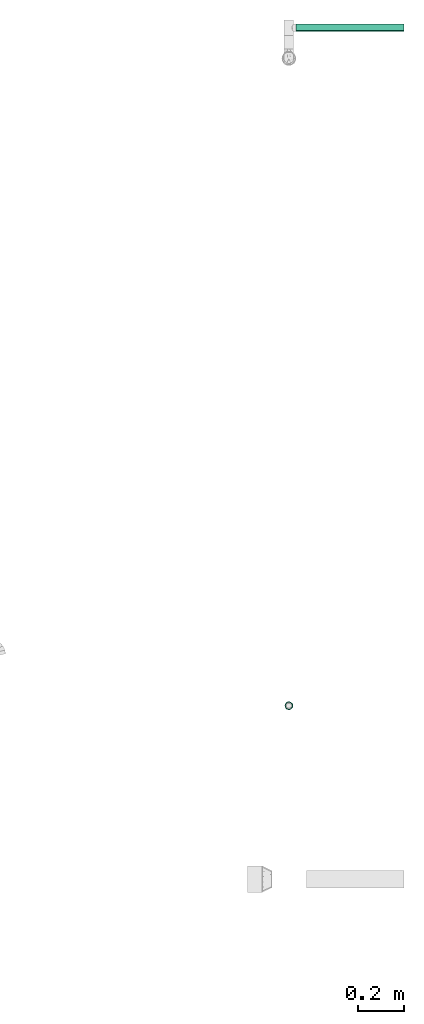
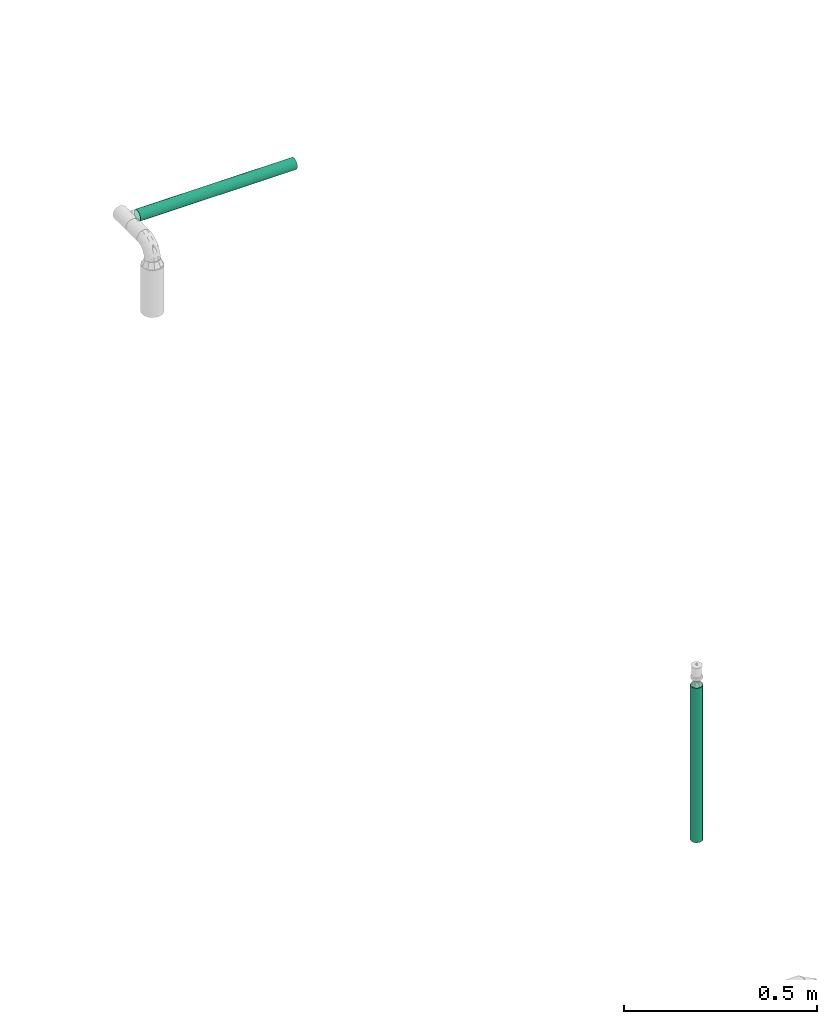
# One storey, part 61 of 63: 2 flow segments.
"""IFC2X3 building model written with IfcOpenShell, lengths in millimetres."""

import ifcopenshell
import ifcopenshell.guid

model = None  # the IFC model being written
_history = None  # IfcOwnerHistory: only IFC2X3 demands one
_inside = {}  # id of a spatial element -> (the spatial element, [elements in it])
_under = {}  # id of a project, library or spatial element -> (it, [spatial elements below it])
_declared = {}  # id of a project -> (the project, [libraries it declares])
_typed = {}  # id of a type object -> (the type object, [elements of that type])
_made_of = {}  # id of a material, layer set ... -> (it, [elements and type objects made of it])


def new_model(schema):
    """Start an empty IFC model of exactly this schema.

    Asked for "IFC4X3", IfcOpenShell would pick the latest addendum, in which some entities
    have other attributes; the version numbers below select the first issue.
    IFC2X3 requires an IfcOwnerHistory on every rooted entity: one is made here for all.
    """
    global model, _history
    if schema == "IFC4X3":
        model = ifcopenshell.file(schema_version=(4, 3, 0, 0))
    else:
        model = ifcopenshell.file(schema=schema)
    _inside.clear()
    _under.clear()
    _declared.clear()
    _typed.clear()
    _made_of.clear()
    _history = None
    if model.schema == "IFC2X3":
        org = make("IfcOrganization", Name="unknown")
        user = make(
            "IfcPersonAndOrganization",
            ThePerson=make("IfcPerson", FamilyName="unknown"),
            TheOrganization=org,
        )
        app = make(
            "IfcApplication",
            ApplicationDeveloper=org,
            Version="unknown",
            ApplicationFullName="unknown",
            ApplicationIdentifier="unknown",
        )
        _history = make(
            "IfcOwnerHistory",
            OwningUser=user,
            OwningApplication=app,
            ChangeAction="ADDED",
            CreationDate=0,
        )
    return model


def make(cls, **values):
    """One entity of the class cls with the attributes given. An attribute that is None is left unset."""
    return model.create_entity(
        cls, **{name: value for name, value in values.items() if value is not None}
    )


def entity(cls, *values):
    """Any entity or typed value of the class cls, its attributes in the order of the schema. None: left unset."""
    e = model.create_entity(cls)
    for i, value in enumerate(values):
        if value is not None:
            e[i] = value
    return e


def rooted(cls, **values):
    """An entity with a GlobalId (a new one), such as an element, a storey or a relation."""
    return make(cls, GlobalId=ifcopenshell.guid.new(), OwnerHistory=_history, **values)


def si_unit(unit_type, name, prefix=None):
    """IfcSIUnit, for example si_unit("LENGTHUNIT", "METRE", prefix="MILLI")."""
    return make("IfcSIUnit", UnitType=unit_type, Prefix=prefix, Name=name)


def converted_unit(unit_type, name, factor, base, dimensions=None, offset=None):
    """IfcConversionBasedUnit, such as the inch: factor (a typed value) times the base unit."""
    return make(
        "IfcConversionBasedUnit"
        if offset is None
        else "IfcConversionBasedUnitWithOffset",
        ConversionOffset=offset,
        Dimensions=None
        if dimensions is None
        else entity("IfcDimensionalExponents", *dimensions),
        UnitType=unit_type,
        Name=name,
        ConversionFactor=make(
            "IfcMeasureWithUnit", ValueComponent=factor, UnitComponent=base
        ),
    )


def derived_unit(unit_type, elements):
    """IfcDerivedUnit: a product of units, each with its exponent."""
    return make(
        "IfcDerivedUnit",
        Elements=[
            make("IfcDerivedUnitElement", Unit=unit, Exponent=power)
            for unit, power in elements
        ],
        UnitType=unit_type,
    )


def assignment(units):
    """IfcUnitAssignment: the units of a project."""
    return None if units is None else make("IfcUnitAssignment", Units=units)


def point(xyz):
    """IfcCartesianPoint."""
    return None if xyz is None else make("IfcCartesianPoint", Coordinates=xyz)


def direction(xyz):
    """IfcDirection."""
    return None if xyz is None else make("IfcDirection", DirectionRatios=xyz)


def frame(location, z_axis=None, x_axis=None):
    """IfcAxis2Placement3D, a coordinate frame: its origin and axes. An axis left out is left unset."""
    return make(
        "IfcAxis2Placement3D",
        Location=point(location),
        Axis=direction(z_axis),
        RefDirection=direction(x_axis),
    )


def place(relative_to, where):
    """IfcLocalPlacement: puts the frame where relative to a parent placement (None: the world)."""
    return make(
        "IfcLocalPlacement", PlacementRelTo=relative_to, RelativePlacement=where
    )


def context(
    kind, dimensions, precision=None, world=None, true_north=None, identifier=None
):
    """IfcGeometricRepresentationContext, for example the 3D "Model" context."""
    return make(
        "IfcGeometricRepresentationContext",
        ContextIdentifier=identifier,
        ContextType=kind,
        CoordinateSpaceDimension=dimensions,
        Precision=precision,
        WorldCoordinateSystem=world,
        TrueNorth=true_north,
    )


def subcontext(parent, identifier, kind, view, scale=None):
    """IfcGeometricRepresentationSubContext, for example "Body" below "Model"."""
    return make(
        "IfcGeometricRepresentationSubContext",
        ContextIdentifier=identifier,
        ContextType=kind,
        ParentContext=parent,
        TargetScale=scale,
        TargetView=view,
    )


def project(units=None, contexts=None):
    """IfcProject with its units and contexts."""
    return rooted(
        "IfcProject",
        Name="project",
        RepresentationContexts=contexts,
        UnitsInContext=assignment(units),
    )


def spatial(cls, under=None, at=None, **own):
    """A site, building, storey or space (cls), placed at a placement, below another one or the project."""
    s = rooted(cls, ObjectPlacement=at, **own)
    if under is not None:
        _under.setdefault(under.id(), (under, []))[1].append(s)
    return s


def faces_of(points, faces, orient=None, outer=None):
    """IfcFace entities. A face is a list of loops; a loop is a list of indices into points, from 0.

    orient and outer hold one flag for each loop. By default every Orientation is true, the
    first loop of a face is its IfcFaceOuterBound and the others are IfcFaceBound.
    """
    made = []
    for i, loops in enumerate(faces):
        bounds = []
        for j, loop in enumerate(loops):
            is_outer = j == 0 if outer is None else outer[i][j]
            bounds.append(
                make(
                    "IfcFaceOuterBound" if is_outer else "IfcFaceBound",
                    Bound=make("IfcPolyLoop", Polygon=[points[k] for k in loop]),
                    Orientation=True if orient is None else orient[i][j],
                )
            )
        made.append(make("IfcFace", Bounds=bounds))
    return made


def faceted_brep(points, faces, orient=None, outer=None, voids=None):
    """IfcFacetedBrep: a solid bounded by flat faces; with voids (closed shells), ...WithVoids."""
    shared = [point(p) for p in points]
    hull = make("IfcClosedShell", CfsFaces=faces_of(shared, faces, orient, outer))
    if voids is None:
        return make("IfcFacetedBrep", Outer=hull)
    return make(
        "IfcFacetedBrepWithVoids",
        Outer=hull,
        Voids=[
            make(cls, CfsFaces=faces_of(shared, fs, o, b)) for cls, fs, o, b in voids
        ],
    )


def shape(context_of_items, identifier, shape_type, items):
    """IfcShapeRepresentation: the items that make up one representation, for example the "Body"."""
    return make(
        "IfcShapeRepresentation",
        ContextOfItems=context_of_items,
        RepresentationIdentifier=identifier,
        RepresentationType=shape_type,
        Items=items,
    )


def made_of(thing, what):
    """Note that an element or type object is made of a material, layer set ...; save() writes the relation."""
    if what is not None:
        _made_of.setdefault(what.id(), (what, []))[1].append(thing)
    return thing


def type_object(cls, material=None, **own):
    """A type object (cls), such as IfcWallType, which elements share."""
    return made_of(rooted(cls, **own), material)


def element(
    cls,
    number,
    at=None,
    inside=None,
    cuts=None,
    type_object=None,
    material=None,
    context=None,
    identifier="Body",
    shape_type=None,
    held_by="IfcProductDefinitionShape",
    body=None,
    shapes=None,
    **own,
):
    """One element of the class cls, such as IfcWall. Its Tag is "e" and its number.

    at: its placement. inside: the storey or other place that contains it. cuts: it is an
    opening in that element (IfcRelVoidsElement). A single representation is given by context,
    identifier, shape_type and body (its items); several are given by shapes. held_by: the class
    of the entity that holds the representations. save() writes the other relations.
    """
    e = rooted(cls, Tag="e%d" % number, ObjectPlacement=at, **own)
    if body is not None:
        shapes = [shape(context, identifier, shape_type, body)]
    if shapes is not None:
        e.Representation = make(held_by, Representations=shapes)
    if inside is not None:
        _inside.setdefault(inside.id(), (inside, []))[1].append(e)
    if cuts is not None:
        rooted(
            "IfcRelVoidsElement", RelatingBuildingElement=cuts, RelatedOpeningElement=e
        )
    if type_object is not None:
        _typed.setdefault(type_object.id(), (type_object, []))[1].append(e)
    return made_of(e, material)


def aggregate(whole, parts):
    """IfcRelAggregates: a whole, such as a stair, and the parts it consists of."""
    return rooted("IfcRelAggregates", RelatingObject=whole, RelatedObjects=parts)


def save(model, path):
    """Write the relations noted so far, then the file.

    IfcRelAggregates (storeys below a building ...), IfcRelContainedInSpatialStructure (elements
    in a storey), IfcRelDefinesByType, IfcRelAssociatesMaterial and IfcRelDeclares: one each for
    every whole, place, type object, material and project.
    """
    for whole, parts in _under.values():
        aggregate(whole, parts)
    for where, things in _inside.values():
        rooted(
            "IfcRelContainedInSpatialStructure",
            RelatedElements=things,
            RelatingStructure=where,
        )
    for kind, things in _typed.values():
        rooted("IfcRelDefinesByType", RelatedObjects=things, RelatingType=kind)
    for what, things in _made_of.values():
        rooted("IfcRelAssociatesMaterial", RelatedObjects=things, RelatingMaterial=what)
    for by, libraries in _declared.values():
        rooted("IfcRelDeclares", RelatingContext=by, RelatedDefinitions=libraries)
    model.write(path)


model = new_model("IFC2X3")

# Units and contexts
model_context = context("Model", 3, precision=0.01, world=frame((0.0, 4.29681676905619e-09, 0.0)), true_north=direction((4.01073788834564e-13, 1.0)))
plan_context = context("Plan", 3, precision=0.01, world=frame((0.0, 4.29681676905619e-09, 0.0)), true_north=direction((4.01073788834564e-13, 1.0)))
body_context = subcontext(model_context, "Body", "Model", "MODEL_VIEW")
ifc_project = project(units=[converted_unit("PLANEANGLEUNIT", "DEGREE", entity("IfcPositiveLengthMeasure", 0.0174532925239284), si_unit("PLANEANGLEUNIT", "RADIAN"), dimensions=[0, 0, 0, 0, 0, 0, 0]), si_unit("AREAUNIT", "SQUARE_METRE"), si_unit("LENGTHUNIT", "METRE", prefix="MILLI"), si_unit("MASSUNIT", "GRAM", prefix="KILO"), si_unit("POWERUNIT", "WATT"), si_unit("PRESSUREUNIT", "PASCAL", prefix="KILO"), si_unit("FORCEUNIT", "NEWTON", prefix="KILO"), si_unit("ELECTRICVOLTAGEUNIT", "VOLT"), si_unit("ELECTRICCURRENTUNIT", "AMPERE"), si_unit("THERMODYNAMICTEMPERATUREUNIT", "DEGREE_CELSIUS"), si_unit("TIMEUNIT", "SECOND"), si_unit("VOLUMEUNIT", "CUBIC_METRE"), derived_unit("LINEARVELOCITYUNIT", [(si_unit("LENGTHUNIT", "METRE"), 1), (si_unit("TIMEUNIT", "SECOND"), -1)]), derived_unit("VOLUMETRICFLOWRATEUNIT", [(si_unit("VOLUMEUNIT", "CUBIC_METRE"), 1), (si_unit("TIMEUNIT", "SECOND"), -1)]), derived_unit("THERMALTRANSMITTANCEUNIT", [(si_unit("POWERUNIT", "WATT"), 1), (si_unit("THERMODYNAMICTEMPERATUREUNIT", "KELVIN"), -1), (si_unit("AREAUNIT", "SQUARE_METRE"), -1)]), derived_unit("SOUNDPRESSUREUNIT", [(si_unit("PRESSUREUNIT", "PASCAL"), 1)])], contexts=[model_context, plan_context])

# Site, building, storey
site_placement = place(None, frame((0.0, -4.29681676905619e-09, 0.0), z_axis=(0.0, 0.0, 1.0), x_axis=(1.0, 0.0, 0.0)))
site = spatial("IfcSite", under=ifc_project, at=site_placement, CompositionType="ELEMENT")
building_placement = place(site_placement, frame((0.0, 4.29681676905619e-09, 0.0), z_axis=(0.0, 0.0, 1.0), x_axis=(1.0, 0.0, 0.0)))
building = spatial("IfcBuilding", under=site, at=building_placement, Name="mc-building", CompositionType="ELEMENT")
storey_placement = place(building_placement, frame((0.0, 0.0, 207370.0), z_axis=(0.0, 0.0, 1.0), x_axis=(1.0, 0.0, 0.0)))
storey = spatial("IfcBuildingStorey", under=building, at=storey_placement, Name="Nivå E", CompositionType="ELEMENT", Elevation=207370.0)

# Flow segments
pipe_segment_type = type_object("IfcPipeSegmentType", Name="Stålrør normaltykke", PredefinedType="RIGIDSEGMENT")
flow_segment_1_placement = place(storey_placement, frame((728673.09045, 446163.23482, 2700.0), z_axis=(0.0, 0.0, 1.0), x_axis=(1.0, 0.0, 0.0)))
element("IfcFlowSegment", 1, at=flow_segment_1_placement, inside=storey, type_object=pipe_segment_type, Name="Stålrør normaltykke", context=body_context, shape_type="Brep", body=[
    faceted_brep([(469.499336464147, 14.9, 0.0), (469.499336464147, 14.6736355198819, -2.58735784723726), (0.0, 14.6736355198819, -2.58735784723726), (0.0, 14.9, 0.0), (469.499336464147, 14.00142004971, -5.09610013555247), (0.0, 14.00142004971, -5.09610013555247), (469.499336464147, 12.9037785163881, -7.45000000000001), (0.0, 12.9037785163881, -7.45000000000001), (469.499336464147, 11.4140622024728, -9.57753538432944), (0.0, 11.4140622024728, -9.57753538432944), (469.499336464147, 9.57753538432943, -11.4140622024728), (0.0, 9.57753538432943, -11.4140622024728), (469.499336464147, 7.45, -12.9037785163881), (0.0, 7.45, -12.9037785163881), (469.499336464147, 5.09610013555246, -14.00142004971), (0.0, 5.09610013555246, -14.00142004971), (469.499336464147, 2.58735784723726, -14.6736355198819), (0.0, 2.58735784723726, -14.6736355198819), (469.499336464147, -2.73708559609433e-15, -14.9), (0.0, -2.73708559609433e-15, -14.9), (469.499336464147, -2.58735784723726, -14.6736355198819), (0.0, -2.58735784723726, -14.6736355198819), (469.499336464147, -5.09610013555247, -14.00142004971), (0.0, -5.09610013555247, -14.00142004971), (469.499336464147, -7.45000000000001, -12.9037785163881), (0.0, -7.45000000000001, -12.9037785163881), (469.499336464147, -9.57753538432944, -11.4140622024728), (0.0, -9.57753538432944, -11.4140622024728), (469.499336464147, -11.4140622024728, -9.57753538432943), (0.0, -11.4140622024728, -9.57753538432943), (469.499336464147, -12.9037785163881, -7.44999999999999), (0.0, -12.9037785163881, -7.44999999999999), (469.499336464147, -14.00142004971, -5.09610013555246), (0.0, -14.00142004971, -5.09610013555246), (469.499336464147, -14.6736355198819, -2.58735784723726), (0.0, -14.6736355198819, -2.58735784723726), (469.499336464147, -14.9, 1.82472373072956e-15), (0.0, -14.9, 1.82472373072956e-15), (469.499336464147, -14.6736355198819, 2.58735784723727), (0.0, -14.6736355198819, 2.58735784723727), (469.499336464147, -14.00142004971, 5.09610013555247), (0.0, -14.00142004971, 5.09610013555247), (469.499336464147, -12.9037785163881, 7.45), (0.0, -12.9037785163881, 7.45), (469.499336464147, -11.4140622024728, 9.57753538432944), (0.0, -11.4140622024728, 9.57753538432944), (469.499336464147, -9.57753538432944, 11.4140622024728), (0.0, -9.57753538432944, 11.4140622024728), (469.499336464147, -7.45, 12.9037785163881), (0.0, -7.45, 12.9037785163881), (469.499336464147, -5.09610013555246, 14.00142004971), (0.0, -5.09610013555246, 14.00142004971), (469.499336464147, -2.58735784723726, 14.6736355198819), (0.0, -2.58735784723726, 14.6736355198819), (469.499336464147, 9.12361865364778e-16, 14.9), (0.0, 9.12361865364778e-16, 14.9), (469.499336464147, 2.58735784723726, 14.6736355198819), (0.0, 2.58735784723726, 14.6736355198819), (469.499336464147, 5.09610013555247, 14.00142004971), (0.0, 5.09610013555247, 14.00142004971), (469.499336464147, 7.45, 12.9037785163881), (0.0, 7.45, 12.9037785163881), (469.499336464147, 9.57753538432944, 11.4140622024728), (0.0, 9.57753538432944, 11.4140622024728), (469.499336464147, 11.4140622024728, 9.57753538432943), (0.0, 11.4140622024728, 9.57753538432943), (469.499336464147, 12.9037785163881, 7.45), (0.0, 12.9037785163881, 7.45), (469.499336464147, 14.00142004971, 5.09610013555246), (0.0, 14.00142004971, 5.09610013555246), (469.499336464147, 14.6736355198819, 2.58735784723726), (0.0, 14.6736355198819, 2.58735784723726), (469.499336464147, 16.6432510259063, -2.93465420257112), (469.499336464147, 16.9, 0.0), (0.0, 16.9, 0.0), (0.0, 16.6432510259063, -2.93465420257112), (469.499336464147, 16.6432510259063, 2.93465420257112), (0.0, 16.6432510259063, 2.93465420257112), (469.499336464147, 15.8808052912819, 5.7801404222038), (0.0, 15.8808052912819, 5.7801404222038), (469.499336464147, 14.635829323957, 8.45), (0.0, 14.635829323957, 8.45), (469.499336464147, 12.9461510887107, 10.8631106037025), (0.0, 12.9461510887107, 10.8631106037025), (469.499336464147, 10.8631106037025, 12.9461510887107), (0.0, 10.8631106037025, 12.9461510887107), (469.499336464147, 8.45, 14.635829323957), (0.0, 8.45, 14.635829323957), (469.499336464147, 5.7801404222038, 15.8808052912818), (0.0, 5.7801404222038, 15.8808052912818), (469.499336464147, 2.93465420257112, 16.6432510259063), (0.0, 2.93465420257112, 16.6432510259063), (469.499336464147, 1.03482654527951e-15, 16.9), (0.0, 1.03482654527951e-15, 16.9), (469.499336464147, -2.93465420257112, 16.6432510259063), (0.0, -2.93465420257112, 16.6432510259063), (469.499336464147, -5.7801404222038, 15.8808052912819), (0.0, -5.7801404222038, 15.8808052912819), (469.499336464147, -8.45, 14.635829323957), (0.0, -8.45, 14.635829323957), (469.499336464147, -10.8631106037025, 12.9461510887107), (0.0, -10.8631106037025, 12.9461510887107), (469.499336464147, -12.9461510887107, 10.8631106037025), (0.0, -12.9461510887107, 10.8631106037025), (469.499336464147, -14.635829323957, 8.45), (0.0, -14.635829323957, 8.45), (469.499336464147, -15.8808052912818, 5.7801404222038), (0.0, -15.8808052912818, 5.7801404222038), (469.499336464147, -16.6432510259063, 2.93465420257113), (0.0, -16.6432510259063, 2.93465420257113), (469.499336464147, -16.9, 2.06965309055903e-15), (0.0, -16.9, 2.06965309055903e-15), (469.499336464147, -16.6432510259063, -2.93465420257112), (0.0, -16.6432510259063, -2.93465420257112), (469.499336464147, -15.8808052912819, -5.7801404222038), (0.0, -15.8808052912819, -5.7801404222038), (469.499336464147, -14.635829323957, -8.44999999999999), (0.0, -14.635829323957, -8.44999999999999), (469.499336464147, -12.9461510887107, -10.8631106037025), (0.0, -12.9461510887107, -10.8631106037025), (469.499336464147, -10.8631106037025, -12.9461510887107), (0.0, -10.8631106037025, -12.9461510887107), (469.499336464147, -8.45000000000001, -14.635829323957), (0.0, -8.45000000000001, -14.635829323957), (469.499336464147, -5.78014042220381, -15.8808052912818), (0.0, -5.78014042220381, -15.8808052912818), (469.499336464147, -2.93465420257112, -16.6432510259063), (0.0, -2.93465420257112, -16.6432510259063), (469.499336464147, -3.10447963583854e-15, -16.9), (0.0, -3.10447963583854e-15, -16.9), (469.499336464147, 2.93465420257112, -16.6432510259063), (0.0, 2.93465420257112, -16.6432510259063), (469.499336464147, 5.78014042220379, -15.8808052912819), (0.0, 5.78014042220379, -15.8808052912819), (469.499336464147, 8.45, -14.635829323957), (0.0, 8.45, -14.635829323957), (469.499336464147, 10.8631106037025, -12.9461510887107), (0.0, 10.8631106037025, -12.9461510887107), (469.499336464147, 12.9461510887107, -10.8631106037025), (0.0, 12.9461510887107, -10.8631106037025), (469.499336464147, 14.635829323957, -8.45000000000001), (0.0, 14.635829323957, -8.45000000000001), (469.499336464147, 15.8808052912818, -5.78014042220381), (0.0, 15.8808052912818, -5.78014042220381)], [[[0, 1, 2, 3]], [[1, 4, 5, 2]], [[4, 6, 7, 5]], [[6, 8, 9, 7]], [[8, 10, 11, 9]], [[10, 12, 13, 11]], [[12, 14, 15, 13]], [[14, 16, 17, 15]], [[16, 18, 19, 17]], [[18, 20, 21, 19]], [[20, 22, 23, 21]], [[22, 24, 25, 23]], [[24, 26, 27, 25]], [[26, 28, 29, 27]], [[28, 30, 31, 29]], [[30, 32, 33, 31]], [[32, 34, 35, 33]], [[34, 36, 37, 35]], [[36, 38, 39, 37]], [[38, 40, 41, 39]], [[40, 42, 43, 41]], [[42, 44, 45, 43]], [[44, 46, 47, 45]], [[46, 48, 49, 47]], [[48, 50, 51, 49]], [[50, 52, 53, 51]], [[52, 54, 55, 53]], [[54, 56, 57, 55]], [[56, 58, 59, 57]], [[58, 60, 61, 59]], [[60, 62, 63, 61]], [[62, 64, 65, 63]], [[64, 66, 67, 65]], [[66, 68, 69, 67]], [[68, 70, 71, 69]], [[70, 0, 3, 71]], [[72, 73, 74, 75]], [[73, 76, 77, 74]], [[76, 78, 79, 77]], [[78, 80, 81, 79]], [[80, 82, 83, 81]], [[82, 84, 85, 83]], [[84, 86, 87, 85]], [[86, 88, 89, 87]], [[88, 90, 91, 89]], [[90, 92, 93, 91]], [[92, 94, 95, 93]], [[94, 96, 97, 95]], [[96, 98, 99, 97]], [[98, 100, 101, 99]], [[100, 102, 103, 101]], [[102, 104, 105, 103]], [[104, 106, 107, 105]], [[106, 108, 109, 107]], [[108, 110, 111, 109]], [[110, 112, 113, 111]], [[112, 114, 115, 113]], [[114, 116, 117, 115]], [[116, 118, 119, 117]], [[118, 120, 121, 119]], [[120, 122, 123, 121]], [[122, 124, 125, 123]], [[124, 126, 127, 125]], [[126, 128, 129, 127]], [[128, 130, 131, 129]], [[130, 132, 133, 131]], [[132, 134, 135, 133]], [[134, 136, 137, 135]], [[136, 138, 139, 137]], [[138, 140, 141, 139]], [[140, 142, 143, 141]], [[142, 72, 75, 143]], [[75, 74, 77, 79, 81, 83, 85, 87, 89, 91, 93, 95, 97, 99, 101, 103, 105, 107, 109, 111, 113, 115, 117, 119, 121, 123, 125, 127, 129, 131, 133, 135, 137, 139, 141, 143], [3, 2, 5, 7, 9, 11, 13, 15, 17, 19, 21, 23, 25, 27, 29, 31, 33, 35, 37, 39, 41, 43, 45, 47, 49, 51, 53, 55, 57, 59, 61, 63, 65, 67, 69, 71]], [[142, 140, 138, 136, 134, 132, 130, 128, 126, 124, 122, 120, 118, 116, 114, 112, 110, 108, 106, 104, 102, 100, 98, 96, 94, 92, 90, 88, 86, 84, 82, 80, 78, 76, 73, 72], [70, 68, 66, 64, 62, 60, 58, 56, 54, 52, 50, 48, 46, 44, 42, 40, 38, 36, 34, 32, 30, 28, 26, 24, 22, 20, 18, 16, 14, 12, 10, 8, 6, 4, 1, 0]]], orient=[[False], [False], [False], [False], [False], [False], [False], [False], [False], [False], [False], [False], [False], [False], [False], [False], [False], [False], [False], [False], [False], [False], [False], [False], [False], [False], [False], [False], [False], [False], [False], [False], [False], [False], [False], [False], [False], [False], [False], [False], [False], [False], [False], [False], [False], [False], [False], [False], [False], [False], [False], [False], [False], [False], [False], [False], [False], [False], [False], [False], [False], [False], [False], [False], [False], [False], [False], [False], [False], [False], [False], [False], [False, False], [False, False]]),
])
flow_segment_2_placement = place(storey_placement, frame((728641.29045, 443211.22347, 2125.29999999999), z_axis=(1.0, 0.0, 0.0), x_axis=(0.0, 0.0, 1.0)))
element("IfcFlowSegment", 2, at=flow_segment_2_placement, inside=storey, type_object=pipe_segment_type, Name="Stålrør normaltykke", context=body_context, shape_type="Brep", body=[
    faceted_brep([(404.700000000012, 14.6736355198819, -2.58735784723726), (404.700000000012, 14.9, 0.0), (893.1, 14.9, 0.0), (893.1, 14.6736355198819, -2.58735784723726), (404.700000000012, 14.00142004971, -5.09610013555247), (893.1, 14.00142004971, -5.09610013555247), (404.700000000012, 12.9037785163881, -7.45000000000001), (893.1, 12.9037785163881, -7.45000000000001), (404.700000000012, 11.4140622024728, -9.57753538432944), (893.1, 11.4140622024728, -9.57753538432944), (404.700000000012, 9.57753538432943, -11.4140622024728), (893.1, 9.57753538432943, -11.4140622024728), (404.700000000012, 7.45, -12.9037785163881), (893.1, 7.45, -12.9037785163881), (404.700000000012, 5.09610013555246, -14.00142004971), (893.1, 5.09610013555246, -14.00142004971), (404.700000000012, 2.58735784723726, -14.6736355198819), (893.1, 2.58735784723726, -14.6736355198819), (404.700000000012, -2.73708559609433e-15, -14.9), (893.1, -2.73708559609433e-15, -14.9), (404.700000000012, -2.58735784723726, -14.6736355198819), (893.1, -2.58735784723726, -14.6736355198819), (404.700000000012, -5.09610013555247, -14.00142004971), (893.1, -5.09610013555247, -14.00142004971), (404.700000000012, -7.45000000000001, -12.9037785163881), (893.1, -7.45000000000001, -12.9037785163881), (404.700000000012, -9.57753538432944, -11.4140622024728), (893.1, -9.57753538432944, -11.4140622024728), (404.700000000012, -11.4140622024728, -9.57753538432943), (893.1, -11.4140622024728, -9.57753538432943), (404.700000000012, -12.9037785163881, -7.44999999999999), (893.1, -12.9037785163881, -7.44999999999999), (404.700000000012, -14.00142004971, -5.09610013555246), (893.1, -14.00142004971, -5.09610013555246), (404.700000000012, -14.6736355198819, -2.58735784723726), (893.1, -14.6736355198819, -2.58735784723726), (404.700000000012, -14.9, 1.82472373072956e-15), (893.1, -14.9, 1.82472373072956e-15), (404.700000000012, -14.6736355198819, 2.58735784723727), (893.1, -14.6736355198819, 2.58735784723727), (404.700000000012, -14.00142004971, 5.09610013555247), (893.1, -14.00142004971, 5.09610013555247), (404.700000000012, -12.9037785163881, 7.45), (893.1, -12.9037785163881, 7.45), (404.700000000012, -11.4140622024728, 9.57753538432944), (893.1, -11.4140622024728, 9.57753538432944), (404.700000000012, -9.57753538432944, 11.4140622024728), (893.1, -9.57753538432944, 11.4140622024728), (404.700000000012, -7.45, 12.9037785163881), (893.1, -7.45, 12.9037785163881), (404.700000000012, -5.09610013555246, 14.00142004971), (893.1, -5.09610013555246, 14.00142004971), (404.700000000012, -2.58735784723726, 14.6736355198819), (893.1, -2.58735784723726, 14.6736355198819), (404.700000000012, 9.12361865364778e-16, 14.9), (893.1, 9.12361865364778e-16, 14.9), (404.700000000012, 2.58735784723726, 14.6736355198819), (893.1, 2.58735784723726, 14.6736355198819), (404.700000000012, 5.09610013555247, 14.00142004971), (893.1, 5.09610013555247, 14.00142004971), (404.700000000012, 7.45, 12.9037785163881), (893.1, 7.45, 12.9037785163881), (404.700000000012, 9.57753538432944, 11.4140622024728), (893.1, 9.57753538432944, 11.4140622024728), (404.700000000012, 11.4140622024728, 9.57753538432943), (893.1, 11.4140622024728, 9.57753538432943), (404.700000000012, 12.9037785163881, 7.45), (893.1, 12.9037785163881, 7.45), (404.700000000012, 14.00142004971, 5.09610013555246), (893.1, 14.00142004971, 5.09610013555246), (404.700000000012, 14.6736355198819, 2.58735784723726), (893.1, 14.6736355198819, 2.58735784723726), (404.700000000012, 16.9, 0.0), (404.700000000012, 16.6432510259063, -2.93465420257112), (893.1, 16.6432510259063, -2.93465420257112), (893.1, 16.9, 0.0), (404.700000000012, 16.6432510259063, 2.93465420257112), (893.1, 16.6432510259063, 2.93465420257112), (404.700000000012, 15.8808052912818, 5.7801404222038), (893.1, 15.8808052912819, 5.7801404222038), (404.700000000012, 14.635829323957, 8.45), (893.1, 14.635829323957, 8.45), (404.700000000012, 12.9461510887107, 10.8631106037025), (893.1, 12.9461510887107, 10.8631106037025), (404.700000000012, 10.8631106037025, 12.9461510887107), (893.1, 10.8631106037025, 12.9461510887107), (404.700000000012, 8.45, 14.635829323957), (893.1, 8.45, 14.635829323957), (404.700000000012, 5.7801404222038, 15.8808052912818), (893.1, 5.7801404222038, 15.8808052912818), (404.700000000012, 2.93465420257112, 16.6432510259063), (893.1, 2.93465420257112, 16.6432510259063), (404.700000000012, 1.03482654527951e-15, 16.9), (893.1, 1.03482654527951e-15, 16.9), (404.700000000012, -2.93465420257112, 16.6432510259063), (893.1, -2.93465420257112, 16.6432510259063), (404.700000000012, -5.7801404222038, 15.8808052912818), (893.1, -5.7801404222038, 15.8808052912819), (404.700000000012, -8.45, 14.635829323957), (893.1, -8.45, 14.635829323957), (404.700000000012, -10.8631106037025, 12.9461510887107), (893.1, -10.8631106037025, 12.9461510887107), (404.700000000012, -12.9461510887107, 10.8631106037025), (893.1, -12.9461510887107, 10.8631106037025), (404.700000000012, -14.635829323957, 8.45), (893.1, -14.635829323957, 8.45), (404.700000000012, -15.8808052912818, 5.7801404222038), (893.1, -15.8808052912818, 5.7801404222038), (404.700000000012, -16.6432510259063, 2.93465420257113), (893.1, -16.6432510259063, 2.93465420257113), (404.700000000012, -16.9, 2.06965309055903e-15), (893.1, -16.9, 2.06965309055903e-15), (404.700000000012, -16.6432510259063, -2.93465420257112), (893.1, -16.6432510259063, -2.93465420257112), (404.700000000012, -15.8808052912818, -5.7801404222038), (893.1, -15.8808052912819, -5.7801404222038), (404.700000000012, -14.635829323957, -8.44999999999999), (893.1, -14.635829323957, -8.44999999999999), (404.700000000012, -12.9461510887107, -10.8631106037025), (893.1, -12.9461510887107, -10.8631106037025), (404.700000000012, -10.8631106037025, -12.9461510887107), (893.1, -10.8631106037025, -12.9461510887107), (404.700000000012, -8.45000000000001, -14.635829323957), (893.1, -8.45000000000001, -14.635829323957), (404.700000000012, -5.78014042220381, -15.8808052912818), (893.1, -5.78014042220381, -15.8808052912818), (404.700000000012, -2.93465420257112, -16.6432510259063), (893.1, -2.93465420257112, -16.6432510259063), (404.700000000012, -3.10447963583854e-15, -16.9), (893.1, -3.10447963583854e-15, -16.9), (404.700000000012, 2.93465420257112, -16.6432510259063), (893.1, 2.93465420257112, -16.6432510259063), (404.700000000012, 5.78014042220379, -15.8808052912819), (893.1, 5.78014042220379, -15.8808052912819), (404.700000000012, 8.45, -14.635829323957), (893.1, 8.45, -14.635829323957), (404.700000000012, 10.8631106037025, -12.9461510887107), (893.1, 10.8631106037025, -12.9461510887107), (404.700000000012, 12.9461510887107, -10.8631106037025), (893.1, 12.9461510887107, -10.8631106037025), (404.700000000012, 14.635829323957, -8.45000000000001), (893.1, 14.635829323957, -8.45000000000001), (404.700000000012, 15.8808052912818, -5.78014042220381), (893.1, 15.8808052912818, -5.78014042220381)], [[[0, 1, 2, 3]], [[4, 0, 3, 5]], [[6, 4, 5, 7]], [[8, 6, 7, 9]], [[10, 8, 9, 11]], [[12, 10, 11, 13]], [[14, 12, 13, 15]], [[16, 14, 15, 17]], [[18, 16, 17, 19]], [[20, 18, 19, 21]], [[22, 20, 21, 23]], [[24, 22, 23, 25]], [[26, 24, 25, 27]], [[28, 26, 27, 29]], [[30, 28, 29, 31]], [[32, 30, 31, 33]], [[34, 32, 33, 35]], [[36, 34, 35, 37]], [[38, 36, 37, 39]], [[40, 38, 39, 41]], [[42, 40, 41, 43]], [[44, 42, 43, 45]], [[46, 44, 45, 47]], [[48, 46, 47, 49]], [[50, 48, 49, 51]], [[52, 50, 51, 53]], [[54, 52, 53, 55]], [[56, 54, 55, 57]], [[58, 56, 57, 59]], [[60, 58, 59, 61]], [[62, 60, 61, 63]], [[64, 62, 63, 65]], [[66, 64, 65, 67]], [[68, 66, 67, 69]], [[70, 68, 69, 71]], [[1, 70, 71, 2]], [[72, 73, 74, 75]], [[76, 72, 75, 77]], [[78, 76, 77, 79]], [[80, 78, 79, 81]], [[82, 80, 81, 83]], [[84, 82, 83, 85]], [[86, 84, 85, 87]], [[88, 86, 87, 89]], [[90, 88, 89, 91]], [[92, 90, 91, 93]], [[94, 92, 93, 95]], [[96, 94, 95, 97]], [[98, 96, 97, 99]], [[100, 98, 99, 101]], [[102, 100, 101, 103]], [[104, 102, 103, 105]], [[106, 104, 105, 107]], [[108, 106, 107, 109]], [[110, 108, 109, 111]], [[112, 110, 111, 113]], [[114, 112, 113, 115]], [[116, 114, 115, 117]], [[118, 116, 117, 119]], [[120, 118, 119, 121]], [[122, 120, 121, 123]], [[124, 122, 123, 125]], [[126, 124, 125, 127]], [[128, 126, 127, 129]], [[130, 128, 129, 131]], [[132, 130, 131, 133]], [[134, 132, 133, 135]], [[136, 134, 135, 137]], [[138, 136, 137, 139]], [[140, 138, 139, 141]], [[142, 140, 141, 143]], [[73, 142, 143, 74]], [[75, 74, 143, 141, 139, 137, 135, 133, 131, 129, 127, 125, 123, 121, 119, 117, 115, 113, 111, 109, 107, 105, 103, 101, 99, 97, 95, 93, 91, 89, 87, 85, 83, 81, 79, 77], [2, 71, 69, 67, 65, 63, 61, 59, 57, 55, 53, 51, 49, 47, 45, 43, 41, 39, 37, 35, 33, 31, 29, 27, 25, 23, 21, 19, 17, 15, 13, 11, 9, 7, 5, 3]], [[76, 78, 80, 82, 84, 86, 88, 90, 92, 94, 96, 98, 100, 102, 104, 106, 108, 110, 112, 114, 116, 118, 120, 122, 124, 126, 128, 130, 132, 134, 136, 138, 140, 142, 73, 72], [4, 6, 8, 10, 12, 14, 16, 18, 20, 22, 24, 26, 28, 30, 32, 34, 36, 38, 40, 42, 44, 46, 48, 50, 52, 54, 56, 58, 60, 62, 64, 66, 68, 70, 1, 0]]], orient=[[False], [False], [False], [False], [False], [False], [False], [False], [False], [False], [False], [False], [False], [False], [False], [False], [False], [False], [False], [False], [False], [False], [False], [False], [False], [False], [False], [False], [False], [False], [False], [False], [False], [False], [False], [False], [False], [False], [False], [False], [False], [False], [False], [False], [False], [False], [False], [False], [False], [False], [False], [False], [False], [False], [False], [False], [False], [False], [False], [False], [False], [False], [False], [False], [False], [False], [False], [False], [False], [False], [False], [False], [False, False], [False, False]]),
])

save(model, "model.ifc")
